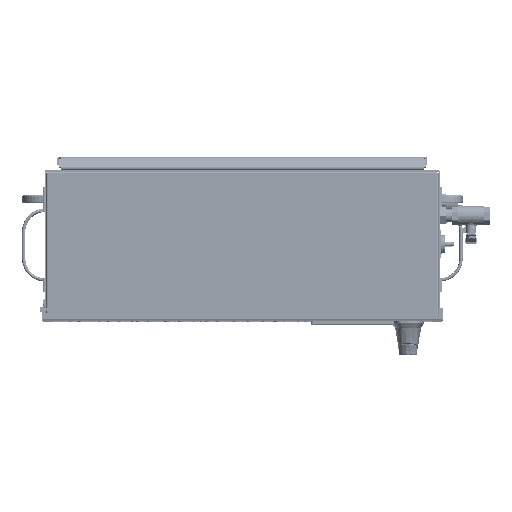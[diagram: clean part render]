
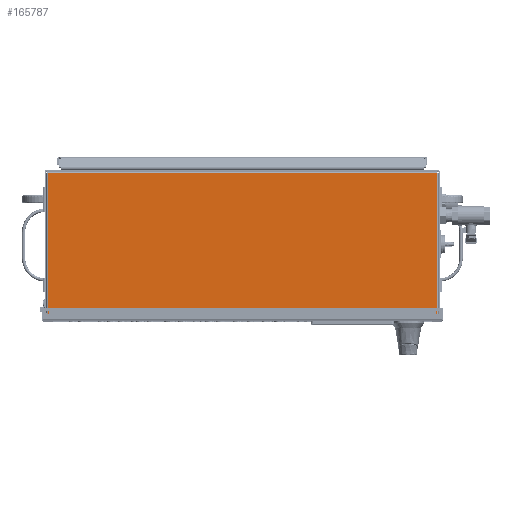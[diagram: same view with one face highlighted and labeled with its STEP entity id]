
A CAD part, top view. The second image highlights one B-rep face of the part: STEP entity #165787.
In plain terms, the highlighted planar face has unit normal (0, 0, 1).
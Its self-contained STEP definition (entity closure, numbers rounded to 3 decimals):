
#7229=FACE_OUTER_BOUND('',#16148,.T.);
#16148=EDGE_LOOP('',(#103269,#103270,#103271,#103272,#103273,#103274));
#29932=LINE('',#228783,#46742);
#29933=LINE('',#228785,#46743);
#29934=LINE('',#228787,#46744);
#29935=LINE('',#228789,#46745);
#29936=LINE('',#228791,#46746);
#29937=LINE('',#228792,#46747);
#46742=VECTOR('',#187291,39.37);
#46743=VECTOR('',#187292,39.37);
#46744=VECTOR('',#187293,39.37);
#46745=VECTOR('',#187294,39.37);
#46746=VECTOR('',#187295,39.37);
#46747=VECTOR('',#187296,39.37);
#63547=VERTEX_POINT('',#228781);
#63548=VERTEX_POINT('',#228782);
#63549=VERTEX_POINT('',#228784);
#63550=VERTEX_POINT('',#228786);
#63551=VERTEX_POINT('',#228788);
#63552=VERTEX_POINT('',#228790);
#79082=EDGE_CURVE('',#63547,#63548,#29932,.T.);
#79083=EDGE_CURVE('',#63548,#63549,#29933,.T.);
#79084=EDGE_CURVE('',#63549,#63550,#29934,.T.);
#79085=EDGE_CURVE('',#63550,#63551,#29935,.T.);
#79086=EDGE_CURVE('',#63551,#63552,#29936,.T.);
#79087=EDGE_CURVE('',#63552,#63547,#29937,.T.);
#103269=ORIENTED_EDGE('',*,*,#79082,.T.);
#103270=ORIENTED_EDGE('',*,*,#79083,.T.);
#103271=ORIENTED_EDGE('',*,*,#79084,.T.);
#103272=ORIENTED_EDGE('',*,*,#79085,.T.);
#103273=ORIENTED_EDGE('',*,*,#79086,.T.);
#103274=ORIENTED_EDGE('',*,*,#79087,.T.);
#151259=PLANE('',#174797);
#165787=ADVANCED_FACE('',(#7229),#151259,.T.);
#174797=AXIS2_PLACEMENT_3D('',#228780,#187289,#187290);
#187289=DIRECTION('center_axis',(0.,0.,
1.));
#187290=DIRECTION('ref_axis',(-1.,0.,0.));
#187291=DIRECTION('',(1.,0.,0.));
#187292=DIRECTION('',(1.,0.,0.));
#187293=DIRECTION('',(1.,0.,0.));
#187294=DIRECTION('',(0.,1.,0.));
#187295=DIRECTION('',(-1.,0.,0.));
#187296=DIRECTION('',(0.,-1.,0.));
#228780=CARTESIAN_POINT('Origin',(11.837,-0.163,18.));
#228781=CARTESIAN_POINT('',(-11.798,-8.887,18.));
#228782=CARTESIAN_POINT('',(-11.403,-8.887,18.));
#228783=CARTESIAN_POINT('',(-11.837,-8.887,18.));
#228784=CARTESIAN_POINT('',(11.403,-8.887,18.));
#228785=CARTESIAN_POINT('',(-11.403,-8.887,18.));
#228786=CARTESIAN_POINT('',(11.798,-8.887,18.));
#228787=CARTESIAN_POINT('',(-11.837,-8.887,18.));
#228788=CARTESIAN_POINT('',(11.798,-0.202,18.));
#228789=CARTESIAN_POINT('',(11.798,-8.887,18.));
#228790=CARTESIAN_POINT('',(-11.798,-0.202,18.));
#228791=CARTESIAN_POINT('',(11.837,-0.202,18.));
#228792=CARTESIAN_POINT('',(-11.798,-0.202,18.));
